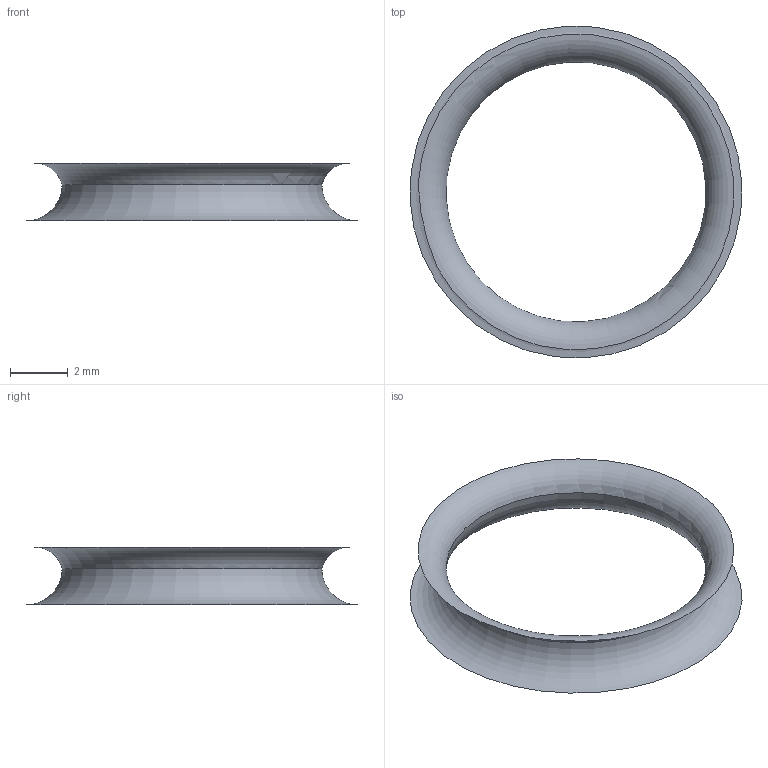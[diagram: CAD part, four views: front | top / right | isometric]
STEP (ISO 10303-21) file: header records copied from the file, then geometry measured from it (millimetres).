
FILE_DESCRIPTION(('BRL-CAD focused geometric regression fixture'),'2;1');
FILE_NAME('shared_revolution_edge','2026-07-24T00:00:00',('BRL-CAD'),('BRL-CAD'),'','','');
FILE_SCHEMA(('AUTOMOTIVE_DESIGN { 1 0 10303 214 3 1 1 1 }'));
Length unit declared in the file: millimetre
Products named in the file (1): shared_revolution_edge
Bounding box: 11.49 x 11.49 x 2 mm (x, y, z)
Surface area: 101.6 mm2 (no closed solid volume)
Topology: 0 solids, 1 shells, 2 faces, 7 edges, 5 vertices
Faces by surface type: torus 2
Entity records: 70 total; most frequent: CARTESIAN_POINT 13, DIRECTION 10, ORIENTED_EDGE 5, AXIS2_PLACEMENT_3D 5, EDGE_LOOP 4, VERTEX_POINT 4, EDGE_CURVE 4, CIRCLE 3
